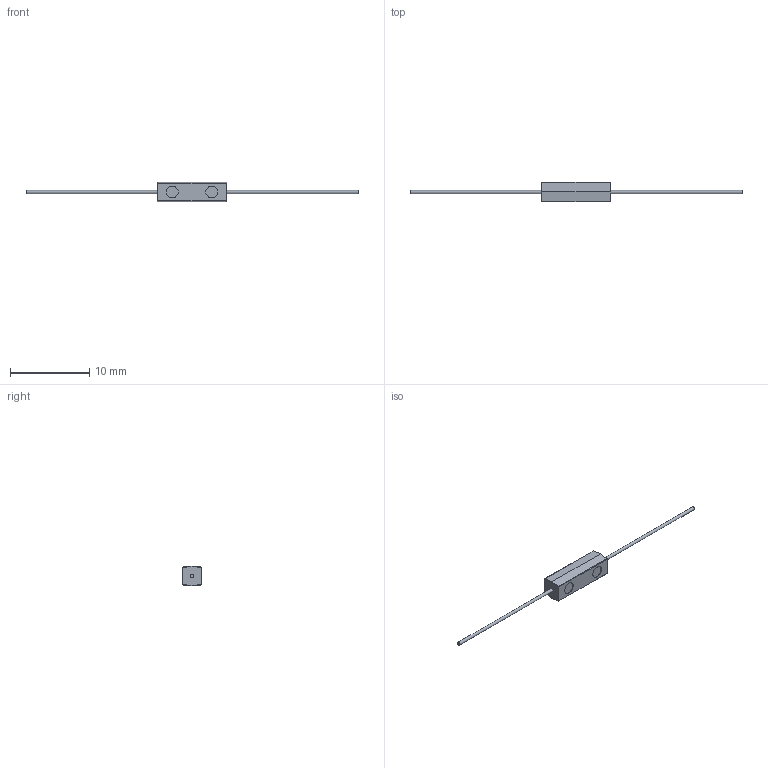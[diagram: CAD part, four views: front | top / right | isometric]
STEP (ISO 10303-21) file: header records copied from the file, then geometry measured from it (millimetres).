
FILE_DESCRIPTION (( 'STEP AP214' ), '1' );
FILE_NAME ('MKA-07101M.STEP', '2026-01-22T05:26:40', ( '' ), ( '' ), 'SwSTEP 2.0', 'SolidWorks 2021', '' );
FILE_SCHEMA (( 'AUTOMOTIVE_DESIGN' ));
Length unit declared in the file: millimetre
Products named in the file (5): 0 Êîíòàêò äåòàëü 07101_10110; 扻錆趑邋謤鍙 07101; 砑僔蠂獥07101M; S Êîíòàêò äåòàëü 07101_‚ë¢®¤ 10110; MKA-07101M
Assembly tree (6 placements, depth 2):
  MKA-07101M
    0 Êîíòàêò äåòàëü 07101_10110  x2
    砑僔蠂獥07101M
    扻錆趑邋謤鍙 07101
    S Êîíòàêò äåòàëü 07101_‚ë¢®¤ 10110  x2
Bounding box: 41.8 x 2.5 x 2.5 mm (x, y, z)
Volume: 64.9 mm3; surface area: 212.6 mm2
Topology: 6 solids, 6 shells, 104 faces, 212 edges, 112 vertices
Faces by surface type: plane 42, cylinder 36, bspline 18, sphere 8
Full cylindrical faces by diameter (mm): 0.397 x2, 0.4 x6, 1.25 x1, 1.5 x2, 1.745 x1
Entity records: 2497 total; most frequent: CARTESIAN_POINT 899, DIRECTION 290, ORIENTED_EDGE 258, EDGE_CURVE 129, AXIS2_PLACEMENT_3D 119, EDGE_LOOP 90, FACE_OUTER_BOUND 88, VERTEX_POINT 77
